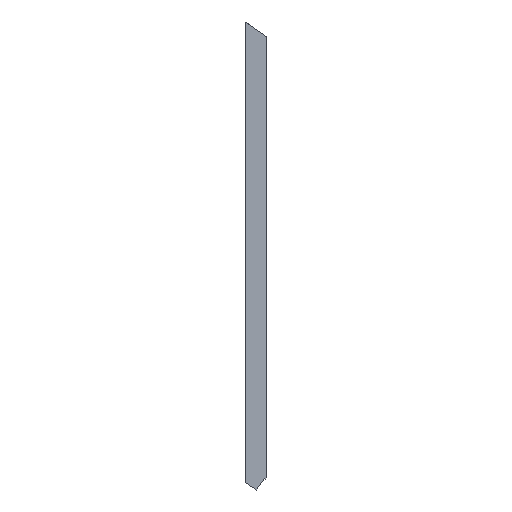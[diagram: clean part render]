
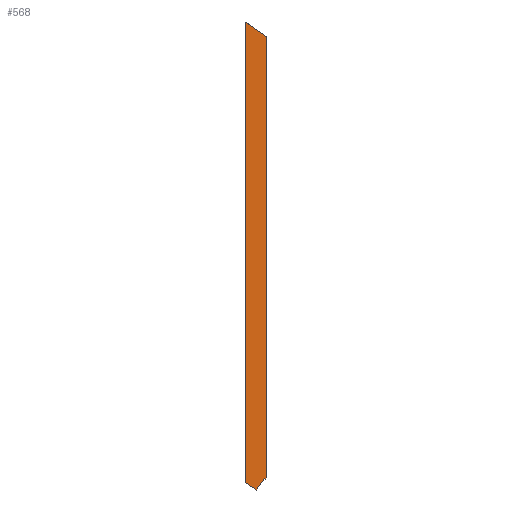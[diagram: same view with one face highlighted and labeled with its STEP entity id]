
A CAD part, left-side view. The second image highlights one B-rep face of the part: STEP entity #568.
In plain terms, the highlighted planar face has unit normal (-1, 0, 0).
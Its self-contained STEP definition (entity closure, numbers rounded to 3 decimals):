
#22 = VERTEX_POINT('',#23);
#23 = CARTESIAN_POINT('',(-37.5,-75.,84.474));
#32 = PLANE('',#33);
#33 = AXIS2_PLACEMENT_3D('',#34,#35,#36);
#34 = CARTESIAN_POINT('',(-37.5,-75.,-70.));
#35 = DIRECTION('',(0.,1.,0.));
#36 = DIRECTION('',(1.,0.,0.));
#43 = PLANE('',#44);
#44 = AXIS2_PLACEMENT_3D('',#45,#46,#47);
#45 = CARTESIAN_POINT('',(-0.,-10.65,-7.455));
#46 = DIRECTION('',(0.,0.819,0.573));
#47 = DIRECTION('',(0.,-0.573,0.819));
#54 = EDGE_CURVE('',#22,#55,#57,.T.);
#55 = VERTEX_POINT('',#56);
#56 = CARTESIAN_POINT('',(-37.5,-75.,3221.298));
#57 = SURFACE_CURVE('',#58,(#62,#69),.PCURVE_S1.);
#58 = LINE('',#59,#60);
#59 = CARTESIAN_POINT('',(-37.5,-75.,-70.));
#60 = VECTOR('',#61,1.);
#61 = DIRECTION('',(0.,0.,1.));
#62 = PCURVE('',#32,#63);
#63 = DEFINITIONAL_REPRESENTATION('',(#64),#68);
#64 = LINE('',#65,#66);
#65 = CARTESIAN_POINT('',(0.,0.));
#66 = VECTOR('',#67,1.);
#67 = DIRECTION('',(0.,-1.));
#68 = ( GEOMETRIC_REPRESENTATION_CONTEXT(2) 
PARAMETRIC_REPRESENTATION_CONTEXT() REPRESENTATION_CONTEXT('2D SPACE',''
  ) );
#69 = PCURVE('',#70,#75);
#70 = PLANE('',#71);
#71 = AXIS2_PLACEMENT_3D('',#72,#73,#74);
#72 = CARTESIAN_POINT('',(-37.5,75.,-70.));
#73 = DIRECTION('',(1.,0.,-0.));
#74 = DIRECTION('',(0.,-1.,0.));
#75 = DEFINITIONAL_REPRESENTATION('',(#76),#80);
#76 = LINE('',#77,#78);
#77 = CARTESIAN_POINT('',(150.,0.));
#78 = VECTOR('',#79,1.);
#79 = DIRECTION('',(0.,-1.));
#80 = ( GEOMETRIC_REPRESENTATION_CONTEXT(2) 
PARAMETRIC_REPRESENTATION_CONTEXT() REPRESENTATION_CONTEXT('2D SPACE',''
  ) );
#97 = PLANE('',#98);
#98 = AXIS2_PLACEMENT_3D('',#99,#100,#101);
#99 = CARTESIAN_POINT('',(0.,-1538.026,2197.18));
#100 = DIRECTION('',(-0.,0.573,-0.819));
#101 = DIRECTION('',(0.,-0.819,-0.573));
#138 = VERTEX_POINT('',#139);
#139 = CARTESIAN_POINT('',(-37.5,-69.143,76.107));
#154 = PLANE('',#155);
#155 = AXIS2_PLACEMENT_3D('',#156,#157,#158);
#156 = CARTESIAN_POINT('',(-102.,-80.612,68.078)
  );
#157 = DIRECTION('',(0.,-0.573,0.819));
#158 = DIRECTION('',(0.,0.819,0.573));
#165 = EDGE_CURVE('',#138,#22,#166,.T.);
#166 = SURFACE_CURVE('',#167,(#171,#177),.PCURVE_S1.);
#167 = LINE('',#168,#169);
#168 = CARTESIAN_POINT('',(-37.5,18.125,-48.562));
#169 = VECTOR('',#170,1.);
#170 = DIRECTION('',(0.,-0.573,0.819));
#171 = PCURVE('',#43,#172);
#172 = DEFINITIONAL_REPRESENTATION('',(#173),#176);
#173 = B_SPLINE_CURVE_WITH_KNOTS('',1,(#174,#175),.UNSPECIFIED.,.F.,.F.,
  (2,2),(-4.806,162.391),.PIECEWISE_BEZIER_KNOTS.);
#174 = CARTESIAN_POINT('',(-54.984,-37.5));
#175 = CARTESIAN_POINT('',(112.213,-37.5));
#176 = ( GEOMETRIC_REPRESENTATION_CONTEXT(2) 
PARAMETRIC_REPRESENTATION_CONTEXT() REPRESENTATION_CONTEXT('2D SPACE',''
  ) );
#177 = PCURVE('',#70,#178);
#178 = DEFINITIONAL_REPRESENTATION('',(#179),#182);
#179 = B_SPLINE_CURVE_WITH_KNOTS('',1,(#180,#181),.UNSPECIFIED.,.F.,.F.,
  (2,2),(-4.806,162.391),.PIECEWISE_BEZIER_KNOTS.);
#180 = CARTESIAN_POINT('',(54.119,-17.5));
#181 = CARTESIAN_POINT('',(150.,-154.474));
#182 = ( GEOMETRIC_REPRESENTATION_CONTEXT(2) 
PARAMETRIC_REPRESENTATION_CONTEXT() REPRESENTATION_CONTEXT('2D SPACE',''
  ) );
#328 = PLANE('',#329);
#329 = AXIS2_PLACEMENT_3D('',#330,#331,#332);
#330 = CARTESIAN_POINT('',(-0.,0.,-0.));
#331 = DIRECTION('',(0.,-0.573,0.819));
#332 = DIRECTION('',(0.,0.819,0.573));
#421 = PLANE('',#422);
#422 = AXIS2_PLACEMENT_3D('',#423,#424,#425);
#423 = CARTESIAN_POINT('',(37.5,75.,-70.));
#424 = DIRECTION('',(0.,-1.,0.));
#425 = DIRECTION('',(-1.,0.,0.));
#438 = EDGE_CURVE('',#55,#439,#441,.T.);
#439 = VERTEX_POINT('',#440);
#440 = CARTESIAN_POINT('',(-37.5,75.,3326.298));
#441 = SURFACE_CURVE('',#442,(#446,#452),.PCURVE_S1.);
#442 = LINE('',#443,#444);
#443 = CARTESIAN_POINT('',(-37.5,-1529.301,2203.287)
  );
#444 = VECTOR('',#445,1.);
#445 = DIRECTION('',(0.,0.819,0.573));
#446 = PCURVE('',#97,#447);
#447 = DEFINITIONAL_REPRESENTATION('',(#448),#451);
#448 = B_SPLINE_CURVE_WITH_KNOTS('',1,(#449,#450),.UNSPECIFIED.,.F.,.F.,
  (2,2),(1775.201,1958.299),
  .PIECEWISE_BEZIER_KNOTS.);
#449 = CARTESIAN_POINT('',(-1785.851,37.5));
#450 = CARTESIAN_POINT('',(-1968.949,37.5));
#451 = ( GEOMETRIC_REPRESENTATION_CONTEXT(2) 
PARAMETRIC_REPRESENTATION_CONTEXT() REPRESENTATION_CONTEXT('2D SPACE',''
  ) );
#452 = PCURVE('',#70,#453);
#453 = DEFINITIONAL_REPRESENTATION('',(#454),#457);
#454 = B_SPLINE_CURVE_WITH_KNOTS('',1,(#455,#456),.UNSPECIFIED.,.F.,.F.,
  (2,2),(1775.201,1958.299),
  .PIECEWISE_BEZIER_KNOTS.);
#455 = CARTESIAN_POINT('',(150.,-3291.298));
#456 = CARTESIAN_POINT('',(0.,-3396.298));
#457 = ( GEOMETRIC_REPRESENTATION_CONTEXT(2) 
PARAMETRIC_REPRESENTATION_CONTEXT() REPRESENTATION_CONTEXT('2D SPACE',''
  ) );
#568 = ADVANCED_FACE('',(#569),#70,.F.);
#569 = FACE_BOUND('',#570,.F.);
#570 = EDGE_LOOP('',(#571,#594,#615,#616,#617,#618,#639));
#571 = ORIENTED_EDGE('',*,*,#572,.F.);
#572 = EDGE_CURVE('',#573,#575,#577,.T.);
#573 = VERTEX_POINT('',#574);
#574 = CARTESIAN_POINT('',(-37.5,75.,52.5));
#575 = VERTEX_POINT('',#576);
#576 = CARTESIAN_POINT('',(-37.5,-2.458,-1.72));
#577 = SURFACE_CURVE('',#578,(#582,#588),.PCURVE_S1.);
#578 = LINE('',#579,#580);
#579 = CARTESIAN_POINT('',(-37.5,8.725,6.107));
#580 = VECTOR('',#581,1.);
#581 = DIRECTION('',(0.,-0.819,-0.573));
#582 = PCURVE('',#70,#583);
#583 = DEFINITIONAL_REPRESENTATION('',(#584),#587);
#584 = B_SPLINE_CURVE_WITH_KNOTS('',1,(#585,#586),.UNSPECIFIED.,.F.,.F.,
  (2,2),(-80.899,102.199),.PIECEWISE_BEZIER_KNOTS.);
#585 = CARTESIAN_POINT('',(0.,-122.5));
#586 = CARTESIAN_POINT('',(150.,-17.5));
#587 = ( GEOMETRIC_REPRESENTATION_CONTEXT(2) 
PARAMETRIC_REPRESENTATION_CONTEXT() REPRESENTATION_CONTEXT('2D SPACE',''
  ) );
#588 = PCURVE('',#328,#589);
#589 = DEFINITIONAL_REPRESENTATION('',(#590),#593);
#590 = B_SPLINE_CURVE_WITH_KNOTS('',1,(#591,#592),.UNSPECIFIED.,.F.,.F.,
  (2,2),(-80.899,102.199),.PIECEWISE_BEZIER_KNOTS.);
#591 = CARTESIAN_POINT('',(91.549,37.5));
#592 = CARTESIAN_POINT('',(-91.549,37.5));
#593 = ( GEOMETRIC_REPRESENTATION_CONTEXT(2) 
PARAMETRIC_REPRESENTATION_CONTEXT() REPRESENTATION_CONTEXT('2D SPACE',''
  ) );
#594 = ORIENTED_EDGE('',*,*,#595,.T.);
#595 = EDGE_CURVE('',#573,#439,#596,.T.);
#596 = SURFACE_CURVE('',#597,(#601,#608),.PCURVE_S1.);
#597 = LINE('',#598,#599);
#598 = CARTESIAN_POINT('',(-37.5,75.,-70.));
#599 = VECTOR('',#600,1.);
#600 = DIRECTION('',(0.,0.,1.));
#601 = PCURVE('',#70,#602);
#602 = DEFINITIONAL_REPRESENTATION('',(#603),#607);
#603 = LINE('',#604,#605);
#604 = CARTESIAN_POINT('',(0.,0.));
#605 = VECTOR('',#606,1.);
#606 = DIRECTION('',(0.,-1.));
#607 = ( GEOMETRIC_REPRESENTATION_CONTEXT(2) 
PARAMETRIC_REPRESENTATION_CONTEXT() REPRESENTATION_CONTEXT('2D SPACE',''
  ) );
#608 = PCURVE('',#421,#609);
#609 = DEFINITIONAL_REPRESENTATION('',(#610),#614);
#610 = LINE('',#611,#612);
#611 = CARTESIAN_POINT('',(75.,0.));
#612 = VECTOR('',#613,1.);
#613 = DIRECTION('',(0.,-1.));
#614 = ( GEOMETRIC_REPRESENTATION_CONTEXT(2) 
PARAMETRIC_REPRESENTATION_CONTEXT() REPRESENTATION_CONTEXT('2D SPACE',''
  ) );
#615 = ORIENTED_EDGE('',*,*,#438,.F.);
#616 = ORIENTED_EDGE('',*,*,#54,.F.);
#617 = ORIENTED_EDGE('',*,*,#165,.F.);
#618 = ORIENTED_EDGE('',*,*,#619,.F.);
#619 = EDGE_CURVE('',#620,#138,#622,.T.);
#620 = VERTEX_POINT('',#621);
#621 = CARTESIAN_POINT('',(-37.5,-60.951,81.841));
#622 = SURFACE_CURVE('',#623,(#627,#633),.PCURVE_S1.);
#623 = LINE('',#624,#625);
#624 = CARTESIAN_POINT('',(-37.5,-60.828,81.927));
#625 = VECTOR('',#626,1.);
#626 = DIRECTION('',(0.,-0.819,-0.573));
#627 = PCURVE('',#70,#628);
#628 = DEFINITIONAL_REPRESENTATION('',(#629),#632);
#629 = B_SPLINE_CURVE_WITH_KNOTS('',1,(#630,#631),.UNSPECIFIED.,.F.,.F.,
  (2,2),(0.15,17.299),.PIECEWISE_BEZIER_KNOTS.);
#630 = CARTESIAN_POINT('',(135.951,-151.841));
#631 = CARTESIAN_POINT('',(150.,-142.007));
#632 = ( GEOMETRIC_REPRESENTATION_CONTEXT(2) 
PARAMETRIC_REPRESENTATION_CONTEXT() REPRESENTATION_CONTEXT('2D SPACE',''
  ) );
#633 = PCURVE('',#154,#634);
#634 = DEFINITIONAL_REPRESENTATION('',(#635),#638);
#635 = B_SPLINE_CURVE_WITH_KNOTS('',1,(#636,#637),.UNSPECIFIED.,.F.,.F.,
  (2,2),(0.15,17.299),.PIECEWISE_BEZIER_KNOTS.);
#636 = CARTESIAN_POINT('',(24.,-64.5));
#637 = CARTESIAN_POINT('',(6.851,-64.5));
#638 = ( GEOMETRIC_REPRESENTATION_CONTEXT(2) 
PARAMETRIC_REPRESENTATION_CONTEXT() REPRESENTATION_CONTEXT('2D SPACE',''
  ) );
#639 = ORIENTED_EDGE('',*,*,#640,.F.);
#640 = EDGE_CURVE('',#575,#620,#641,.T.);
#641 = SURFACE_CURVE('',#642,(#646,#652),.PCURVE_S1.);
#642 = LINE('',#643,#644);
#643 = CARTESIAN_POINT('',(-37.5,55.564,-84.609));
#644 = VECTOR('',#645,1.);
#645 = DIRECTION('',(0.,-0.573,0.819));
#646 = PCURVE('',#70,#647);
#647 = DEFINITIONAL_REPRESENTATION('',(#648),#651);
#648 = B_SPLINE_CURVE_WITH_KNOTS('',1,(#649,#650),.UNSPECIFIED.,.F.,.F.,
  (2,2),(94.178,203.178),.PIECEWISE_BEZIER_KNOTS.);
#649 = CARTESIAN_POINT('',(73.443,-62.545));
#650 = CARTESIAN_POINT('',(135.951,-151.841));
#651 = ( GEOMETRIC_REPRESENTATION_CONTEXT(2) 
PARAMETRIC_REPRESENTATION_CONTEXT() REPRESENTATION_CONTEXT('2D SPACE',''
  ) );
#652 = PCURVE('',#653,#658);
#653 = PLANE('',#654);
#654 = AXIS2_PLACEMENT_3D('',#655,#656,#657);
#655 = CARTESIAN_POINT('',(-102.,56.035,-85.282)
  );
#656 = DIRECTION('',(0.,0.819,0.573));
#657 = DIRECTION('',(0.,-0.573,0.819));
#658 = DEFINITIONAL_REPRESENTATION('',(#659),#662);
#659 = B_SPLINE_CURVE_WITH_KNOTS('',1,(#660,#661),.UNSPECIFIED.,.F.,.F.,
  (2,2),(94.178,203.178),.PIECEWISE_BEZIER_KNOTS.);
#660 = CARTESIAN_POINT('',(95.,64.5));
#661 = CARTESIAN_POINT('',(204.,64.5));
#662 = ( GEOMETRIC_REPRESENTATION_CONTEXT(2) 
PARAMETRIC_REPRESENTATION_CONTEXT() REPRESENTATION_CONTEXT('2D SPACE',''
  ) );
